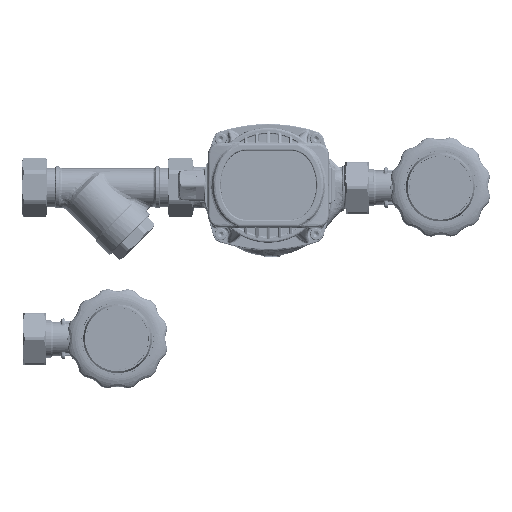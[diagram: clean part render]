
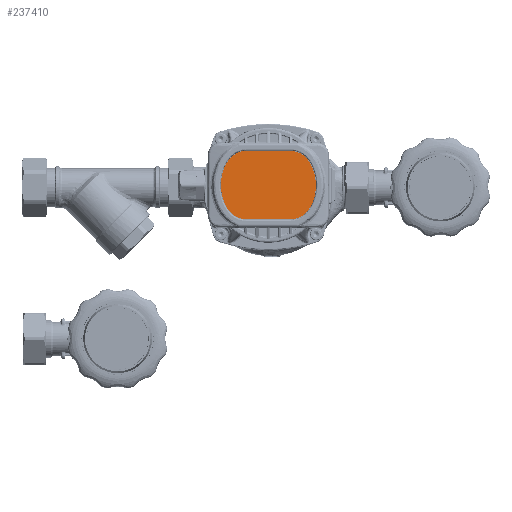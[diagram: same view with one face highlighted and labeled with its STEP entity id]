
A CAD part, top view. The second image highlights one B-rep face of the part: STEP entity #237410.
In plain terms, the highlighted planar face has unit normal (0, 0.016, 1) as drawn and (0, 0, -1) by its records, which use the part's own axes.
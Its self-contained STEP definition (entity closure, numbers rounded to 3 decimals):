
#7962 = CARTESIAN_POINT ( 'NONE',  ( 33.468, -6.401, -93.329 ) ) ;
#8010 = CIRCLE ( 'NONE', #205521, 15.4 ) ;
#16419 = VERTEX_POINT ( 'NONE', #81896 ) ;
#20267 = CARTESIAN_POINT ( 'NONE',  ( -31.397, -12.474, -93.329 ) ) ;
#20678 = ORIENTED_EDGE ( 'NONE', *, *, #132997, .F. ) ;
#23684 = ORIENTED_EDGE ( 'NONE', *, *, #122350, .F. ) ;
#26240 = DIRECTION ( 'NONE',  ( 1., 0., 0. ) ) ;
#31296 = AXIS2_PLACEMENT_3D ( 'NONE', #91882, #183193, #305273 ) ;
#31363 = DIRECTION ( 'NONE',  ( 0., 0., 1. ) ) ;
#34467 = EDGE_CURVE ( 'NONE', #158587, #206684, #8010, .T. ) ;
#36475 = VERTEX_POINT ( 'NONE', #57817 ) ;
#39761 = CARTESIAN_POINT ( 'NONE',  ( 15.656, -24.4, -93.329 ) ) ;
#46837 = DIRECTION ( 'NONE',  ( 1., 0., 0. ) ) ;
#52570 = DIRECTION ( 'NONE',  ( 0., 0., 1. ) ) ;
#53102 = FACE_OUTER_BOUND ( 'NONE', #77406, .T. ) ;
#54098 = CARTESIAN_POINT ( 'NONE',  ( -15.653, -9., -93.329 ) ) ;
#56709 = DIRECTION ( 'NONE',  ( 0., 0., 1. ) ) ;
#57298 = CARTESIAN_POINT ( 'NONE',  ( -26.943, 19.474, -93.329 ) ) ;
#57817 = CARTESIAN_POINT ( 'NONE',  ( 31.4, 12.474, -93.329 ) ) ;
#60152 = ORIENTED_EDGE ( 'NONE', *, *, #167539, .F. ) ;
#67457 = VERTEX_POINT ( 'NONE', #20267 ) ;
#71217 = CIRCLE ( 'NONE', #194730, 23.021 ) ;
#71926 = CARTESIAN_POINT ( 'NONE',  ( -15.653, -24.4, -93.329 ) ) ;
#75047 = DIRECTION ( 'NONE',  ( 1., 0., 0. ) ) ;
#76568 = CARTESIAN_POINT ( 'NONE',  ( 10.069, 3.817, -93.329 ) ) ;
#77406 = EDGE_LOOP ( 'NONE', ( #280343, #133051, #189472, #276219, #180752, #23684, #20678, #167902, #102954, #283922, #60152, #86066 ) ) ;
#77758 = CARTESIAN_POINT ( 'NONE',  ( -15.653, 9., -93.329 ) ) ;
#81896 = CARTESIAN_POINT ( 'NONE',  ( -31.397, 12.474, -93.329 ) ) ;
#84904 = AXIS2_PLACEMENT_3D ( 'NONE', #54098, #52570, #26240 ) ;
#85029 = CIRCLE ( 'NONE', #292509, 15.4 ) ;
#85698 = LINE ( 'NONE', #251025, #156190 ) ;
#86066 = ORIENTED_EDGE ( 'NONE', *, *, #281201, .F. ) ;
#91772 = CARTESIAN_POINT ( 'NONE',  ( -32.205, 10.484, -93.329 ) ) ;
#91882 = CARTESIAN_POINT ( 'NONE',  ( -10.066, 3.817, -93.329 ) ) ;
#96337 = CARTESIAN_POINT ( 'NONE',  ( -31.397, 12.474, -93.329 ) ) ;
#98228 = DIRECTION ( 'NONE',  ( 0., 0., 1. ) ) ;
#102223 = CARTESIAN_POINT ( 'NONE',  ( 31.4, 12.474, -93.329 ) ) ;
#102954 = ORIENTED_EDGE ( 'NONE', *, *, #113866, .F. ) ;
#103375 = VERTEX_POINT ( 'NONE', #183058 ) ;
#110331 = DIRECTION ( 'NONE',  ( 0., 0., 1. ) ) ;
#111864 = CARTESIAN_POINT ( 'NONE',  ( 15.656, 9., -93.329 ) ) ;
#113866 = EDGE_CURVE ( 'NONE', #16419, #67457, #222160, .T. ) ;
#119848 = CARTESIAN_POINT ( 'NONE',  ( -10.066, -3.817, -93.329 ) ) ;
#122298 = EDGE_CURVE ( 'NONE', #258164, #103375, #170992, .T. ) ;
#122350 = EDGE_CURVE ( 'NONE', #133445, #158587, #85698, .T. ) ;
#125075 = CARTESIAN_POINT ( 'NONE',  ( -15.653, 24.4, -93.329 ) ) ;
#132997 = EDGE_CURVE ( 'NONE', #183219, #133445, #198510, .T. ) ;
#133051 = ORIENTED_EDGE ( 'NONE', *, *, #245384, .F. ) ;
#133445 = VERTEX_POINT ( 'NONE', #71926 ) ;
#135655 = EDGE_CURVE ( 'NONE', #206684, #165366, #71217, .T. ) ;
#136999 = CIRCLE ( 'NONE', #255503, 23.021 ) ;
#143875 = CARTESIAN_POINT ( 'NONE',  ( 26.946, 19.474, -93.329 ) ) ;
#146485 = CARTESIAN_POINT ( 'NONE',  ( 15.656, -9., -93.329 ) ) ;
#149536 = DIRECTION ( 'NONE',  ( 1., 0., 0. ) ) ;
#149650 = CARTESIAN_POINT ( 'NONE',  ( -15.653, 24.4, -93.329 ) ) ;
#152063 = CARTESIAN_POINT ( 'NONE',  ( -26.943, -19.474, -93.329 ) ) ;
#156190 = VECTOR ( 'NONE', #278865, 1000. ) ;
#158587 = VERTEX_POINT ( 'NONE', #39761 ) ;
#164573 = CIRCLE ( 'NONE', #31296, 23.021 ) ;
#165366 = VERTEX_POINT ( 'NONE', #303197 ) ;
#167539 = EDGE_CURVE ( 'NONE', #196540, #230819, #85029, .T. ) ;
#167902 = ORIENTED_EDGE ( 'NONE', *, *, #276335, .F. ) ;
#169989 = DIRECTION ( 'NONE',  ( -1., 0., 0. ) ) ;
#170856 = DIRECTION ( 'NONE',  ( 0., 0., 1. ) ) ;
#170992 = CIRCLE ( 'NONE', #249958, 15.4 ) ;
#171954 = CIRCLE ( 'NONE', #216333, 23.021 ) ;
#172047 = DIRECTION ( 'NONE',  ( 1., 0., 0. ) ) ;
#177962 = CARTESIAN_POINT ( 'NONE',  ( 34.355, 2.144, -93.329 ) ) ;
#180752 = ORIENTED_EDGE ( 'NONE', *, *, #34467, .F. ) ;
#183058 = CARTESIAN_POINT ( 'NONE',  ( 15.656, 24.4, -93.329 ) ) ;
#183193 = DIRECTION ( 'NONE',  ( 0., 0., 1. ) ) ;
#183219 = VERTEX_POINT ( 'NONE', #152063 ) ;
#185325 = DIRECTION ( 'NONE',  ( 1., 0., 0. ) ) ;
#189472 = ORIENTED_EDGE ( 'NONE', *, *, #287575, .F. ) ;
#192138 = CARTESIAN_POINT ( 'NONE',  ( -33.464, 6.4, -93.329 ) ) ;
#194730 = AXIS2_PLACEMENT_3D ( 'NONE', #281814, #258525, #46837 ) ;
#196540 = VERTEX_POINT ( 'NONE', #149650 ) ;
#198510 = CIRCLE ( 'NONE', #84904, 15.4 ) ;
#199583 = CARTESIAN_POINT ( 'NONE',  ( 32.208, -10.484, -93.329 ) ) ;
#205521 = AXIS2_PLACEMENT_3D ( 'NONE', #146485, #240792, #149536 ) ;
#206684 = VERTEX_POINT ( 'NONE', #279166 ) ;
#216333 = AXIS2_PLACEMENT_3D ( 'NONE', #119848, #98228, #75047 ) ;
#221296 = CARTESIAN_POINT ( 'NONE',  ( 31.4, -12.474, -93.329 ) ) ;
#222160 = B_SPLINE_CURVE_WITH_KNOTS ( 'NONE', 3,
 ( #96337, #91772, #192138, #305155, #261716, #281942 ),
 .UNSPECIFIED., .F., .F.,
 ( 4, 1, 1, 4 ),
 ( 0.01, 0.255, 0.5, 0.99 ),
 .UNSPECIFIED. ) ;
#230819 = VERTEX_POINT ( 'NONE', #57298 ) ;
#237410 = ADVANCED_FACE ( 'NONE', ( #53102 ), #266351, .F. ) ;
#240792 = DIRECTION ( 'NONE',  ( 0., 0., 1. ) ) ;
#241047 = LINE ( 'NONE', #125075, #268336 ) ;
#245203 = DIRECTION ( 'NONE',  ( 1., 0., 0. ) ) ;
#245384 = EDGE_CURVE ( 'NONE', #36475, #258164, #136999, .T. ) ;
#248482 = B_SPLINE_CURVE_WITH_KNOTS ( 'NONE', 3,
 ( #221296, #199583, #7962, #177962, #289385, #102223 ),
 .UNSPECIFIED., .F., .F.,
 ( 4, 1, 1, 4 ),
 ( 0.01, 0.255, 0.5, 0.99 ),
 .UNSPECIFIED. ) ;
#249958 = AXIS2_PLACEMENT_3D ( 'NONE', #111864, #110331, #252559 ) ;
#251025 = CARTESIAN_POINT ( 'NONE',  ( -15.653, -24.4, -93.329 ) ) ;
#252559 = DIRECTION ( 'NONE',  ( 1., 0., 0. ) ) ;
#255503 = AXIS2_PLACEMENT_3D ( 'NONE', #76568, #170856, #185325 ) ;
#256094 = AXIS2_PLACEMENT_3D ( 'NONE', #77758, #31363, #172047 ) ;
#258164 = VERTEX_POINT ( 'NONE', #143875 ) ;
#258525 = DIRECTION ( 'NONE',  ( 0., 0., 1. ) ) ;
#261716 = CARTESIAN_POINT ( 'NONE',  ( -33.013, -8.493, -93.329 ) ) ;
#266351 = PLANE ( 'NONE',  #256094 ) ;
#268336 = VECTOR ( 'NONE', #169989, 1000. ) ;
#271599 = EDGE_CURVE ( 'NONE', #230819, #16419, #164573, .T. ) ;
#276219 = ORIENTED_EDGE ( 'NONE', *, *, #135655, .F. ) ;
#276335 = EDGE_CURVE ( 'NONE', #67457, #183219, #171954, .T. ) ;
#278865 = DIRECTION ( 'NONE',  ( 1., 0., 0. ) ) ;
#279166 = CARTESIAN_POINT ( 'NONE',  ( 26.946, -19.474, -93.329 ) ) ;
#280343 = ORIENTED_EDGE ( 'NONE', *, *, #122298, .F. ) ;
#281201 = EDGE_CURVE ( 'NONE', #103375, #196540, #241047, .T. ) ;
#281814 = CARTESIAN_POINT ( 'NONE',  ( 10.069, -3.817, -93.329 ) ) ;
#281942 = CARTESIAN_POINT ( 'NONE',  ( -31.397, -12.474, -93.329 ) ) ;
#283922 = ORIENTED_EDGE ( 'NONE', *, *, #271599, .F. ) ;
#287575 = EDGE_CURVE ( 'NONE', #165366, #36475, #248482, .T. ) ;
#289385 = CARTESIAN_POINT ( 'NONE',  ( 33.016, 8.493, -93.329 ) ) ;
#290189 = CARTESIAN_POINT ( 'NONE',  ( -15.653, 9., -93.329 ) ) ;
#292509 = AXIS2_PLACEMENT_3D ( 'NONE', #290189, #56709, #245203 ) ;
#303197 = CARTESIAN_POINT ( 'NONE',  ( 31.4, -12.474, -93.329 ) ) ;
#305155 = CARTESIAN_POINT ( 'NONE',  ( -34.353, -2.145, -93.329 ) ) ;
#305273 = DIRECTION ( 'NONE',  ( 1., 0., 0. ) ) ;
